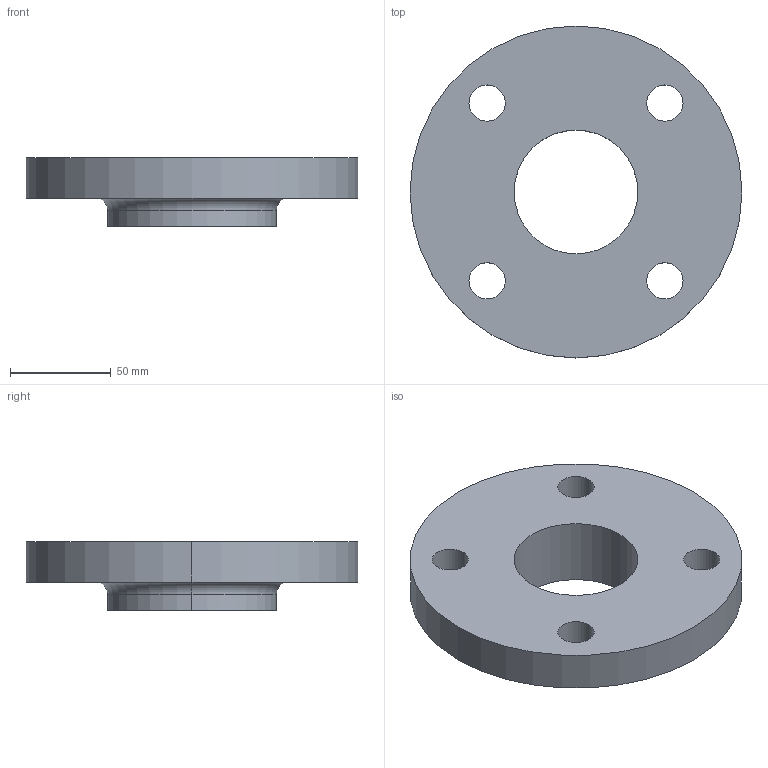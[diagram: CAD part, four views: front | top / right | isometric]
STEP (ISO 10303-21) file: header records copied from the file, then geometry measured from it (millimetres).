
FILE_DESCRIPTION (( 'STEP AP214' ), '1' );
FILE_NAME ('PN40 DN50 Type 12 - Type A Face.STEP', '2018-12-30T04:34:33', ( '' ), ( '' ), 'SwSTEP 2.0', 'SolidWorks 2019', '' );
FILE_SCHEMA (( 'AUTOMOTIVE_DESIGN' ));
Length unit declared in the file: millimetre
Products named in the file (1): PN40 DN50 Type 12 - Type A Face
Bounding box: 165 x 165 x 34 mm (x, y, z)
Volume: 385980.9 mm3; surface area: 59279.2 mm2
Topology: 1 solids, 1 shells, 19 faces, 46 edges, 30 vertices
Faces by surface type: cylinder 14, plane 3, torus 2
Entity records: 630 total; most frequent: DIRECTION 118, CARTESIAN_POINT 96, ORIENTED_EDGE 92, AXIS2_PLACEMENT_3D 52, EDGE_CURVE 46, CIRCLE 32, VERTEX_POINT 30, EDGE_LOOP 30
